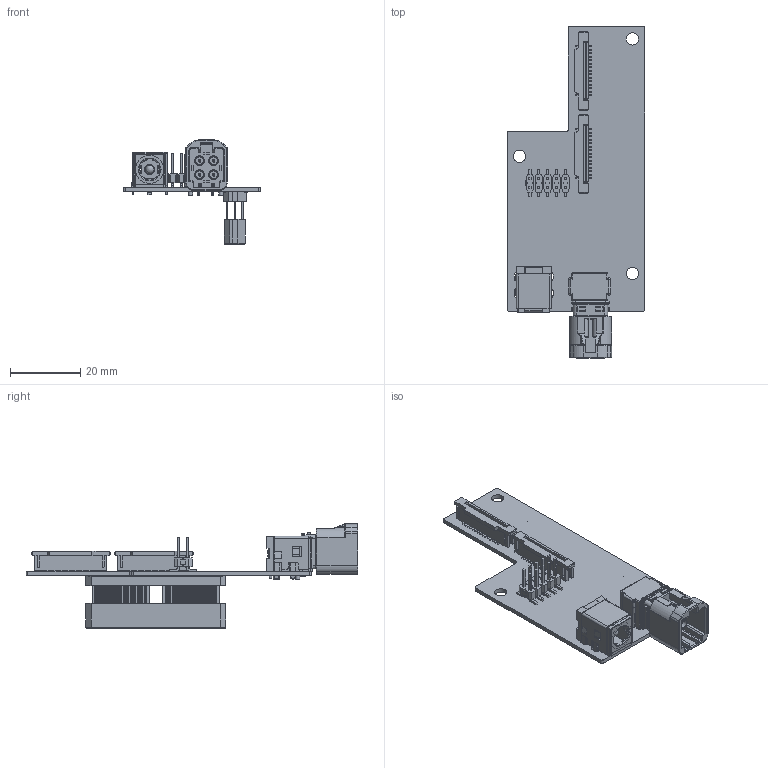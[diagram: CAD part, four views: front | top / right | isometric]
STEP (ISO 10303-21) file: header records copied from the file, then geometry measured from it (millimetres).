
FILE_DESCRIPTION(/* description */ (''),/* implementation_level */ '2;1');
FILE_NAME(/* name */ 'Capture card GMSL.step',/* time_stamp */ '2023-04-19T10:31:18+02:00',/* author */ (''),/* organization */ (''),/* preprocessor_version */ 'ST-DEVELOPER v19.2',/* originating_system */ 'Autodesk Translation Framework v12.4.0.73',/* authorisation */ '');
FILE_SCHEMA (('AUTOMOTIVE_DESIGN { 1 0 10303 214 3 1 1 }'));
Products named in the file (27): Capture card GMSL; E3653_A03_ALLEGRO_PCB; CUI_DEVICES_PJ-082BH_ASM; CUI_DEVICES_PJ-082BH_1_ASM; PJ-082BH3-2-1-SOLID1; PJ-082BH8-2-1-SOLID1; PJ-082BH1-2-1-SOLID1; PJ-082BH2-2-1-SOLID1; PJ-082BH10-2-1-SOLID1; PJ-082BH11-2-1-SOLID1; PJ-082BH6-2-1-SOLID1; PJ-082BH7-2-1-SOLID1; PJ-082BH5-2-1-SOLID1; PJ-082BH12-2-1-SOLID1; PJ-082BH9-2-1-SOLID1; PJ-082BH4-2-1-SOLID1; C-1-1734248-5-E-3D; TSM-105-01-T-DV_ASM; TSM-105-01-T-DV_1_ASM; T-1S6-16_-01-5-DV_; TSM-105-01-DV_BODY; C-1-2304168-9-B-3D; QTH-060-04-H-D-A-TR; LTQTH-060-04-H-D-A_lower_terminal; T-1G1-04_imp; T-1S60-04(-060-04-D)_pin; TQTH-060-04-H-D-A-TR_terminal
Assembly tree (29 placements, depth 4):
  Capture card GMSL
    E3653_A03_ALLEGRO_PCB
    CUI_DEVICES_PJ-082BH_ASM
      CUI_DEVICES_PJ-082BH_1_ASM
        PJ-082BH3-2-1-SOLID1
        PJ-082BH8-2-1-SOLID1
        PJ-082BH1-2-1-SOLID1
        PJ-082BH2-2-1-SOLID1
        PJ-082BH10-2-1-SOLID1
        PJ-082BH11-2-1-SOLID1
        PJ-082BH6-2-1-SOLID1
        PJ-082BH7-2-1-SOLID1
        PJ-082BH5-2-1-SOLID1
        PJ-082BH12-2-1-SOLID1
        PJ-082BH9-2-1-SOLID1
        PJ-082BH4-2-1-SOLID1
    C-1-1734248-5-E-3D  x2
    TSM-105-01-T-DV_ASM
      TSM-105-01-T-DV_1_ASM
        T-1S6-16_-01-5-DV_
        TSM-105-01-DV_BODY
    C-1-2304168-9-B-3D
    QTH-060-04-H-D-A-TR
      LTQTH-060-04-H-D-A_lower_terminal
      T-1G1-04_imp  x2
      T-1S60-04(-060-04-D)_pin  x2
      TQTH-060-04-H-D-A-TR_terminal
Bounding box: 39.2 x 94.8 x 29.79 mm (x, y, z)
Volume: 8970.2 mm3; surface area: 18805.6 mm2
Topology: 25 solids, 25 shells, 5571 faces, 16193 edges, 10659 vertices
Faces by surface type: plane 4829, cylinder 514, torus 88, bspline 62, cone 54, sphere 24
Full cylindrical faces by diameter (mm): 0.889 x2, 1 x4, 1.2 x6, 1.35 x1, 1.5 x1, 1.6 x4, 2 x1, 2.2 x4, 2.3 x1, 2.4 x1, 2.8 x6, 2.85 x2, 3.5 x3
Entity records: 137182 total; most frequent: CARTESIAN_POINT 32596, ORIENTED_EDGE 22572, DIRECTION 20218, EDGE_CURVE 11286, LINE 9878, VECTOR 9878, VERTEX_POINT 7409, AXIS2_PLACEMENT_3D 5170
